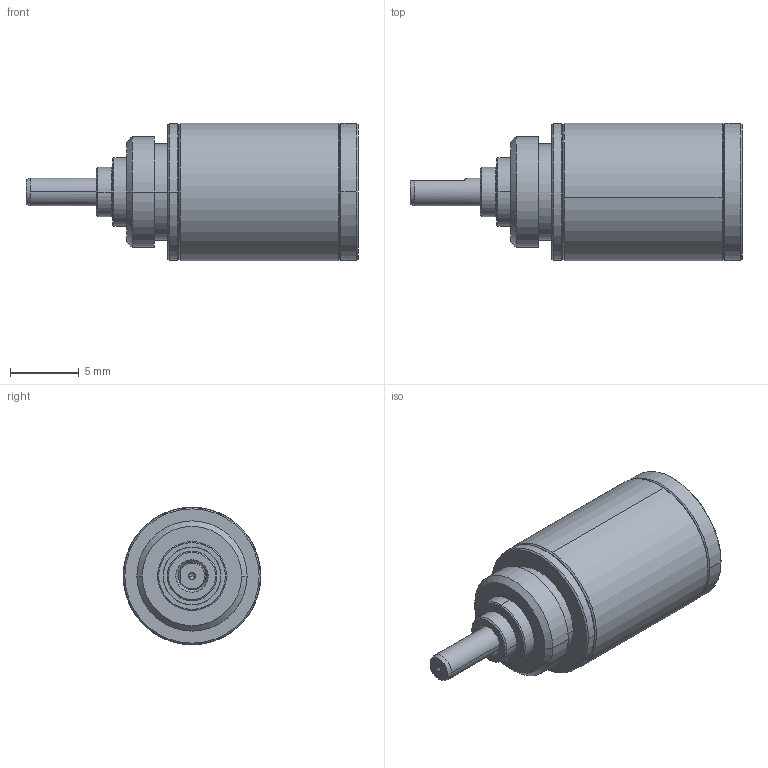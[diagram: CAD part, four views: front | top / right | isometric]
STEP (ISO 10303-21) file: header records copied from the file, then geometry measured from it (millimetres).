
FILE_DESCRIPTION((''),'2;1');
FILE_NAME('218416_GP10A_0_03NM_2ST_KL','2017-01-11T',('mmagpetk'),(''),'CREO PARAMETRIC BY PTC INC, 2016050','CREO PARAMETRIC BY PTC INC, 2016050','');
FILE_SCHEMA(('CONFIG_CONTROL_DESIGN'));
Length unit declared in the file: millimetre
Products named in the file (1): 218416_GP10A_0_03NM_2ST_KL
Bounding box: 24.1 x 9.96 x 9.96 mm (x, y, z)
Volume: 1239.6 mm3; surface area: 766.4 mm2
Topology: 1 solids, 1 shells, 63 faces, 143 edges, 91 vertices
Faces by surface type: cone 25, cylinder 22, plane 14, torus 2
Entity records: 2516 total; most frequent: DIRECTION 350, CARTESIAN_POINT 310, ORIENTED_EDGE 282, PRESENTATION_STYLE_ASSIGNMENT 157, AXIS2_PLACEMENT_3D 150, STYLED_ITEM 142, CURVE_STYLE 141, EDGE_CURVE 141
